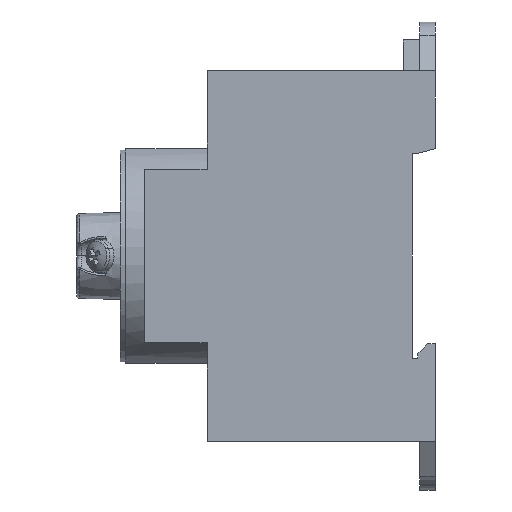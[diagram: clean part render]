
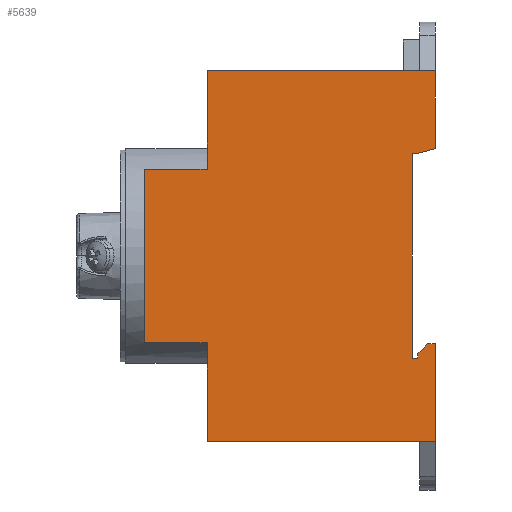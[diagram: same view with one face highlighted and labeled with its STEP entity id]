
A CAD part, left-side view. The second image highlights one B-rep face of the part: STEP entity #5639.
In plain terms, the highlighted planar face has unit normal (-1, 0, 0).
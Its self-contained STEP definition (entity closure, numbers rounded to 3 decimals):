
#64 = CARTESIAN_POINT ( 'NONE',  ( -24., 3., -17.65 ) ) ;
#140 = EDGE_CURVE ( 'NONE', #5126, #5899, #4049, .T. ) ;
#168 = ORIENTED_EDGE ( 'NONE', *, *, #3841, .F. ) ;
#253 = CARTESIAN_POINT ( 'NONE',  ( -24., 0., 32. ) ) ;
#258 = CARTESIAN_POINT ( 'NONE',  ( -24., 4., -17.65 ) ) ;
#374 = EDGE_CURVE ( 'NONE', #2223, #6855, #3961, .T. ) ;
#505 = CARTESIAN_POINT ( 'NONE',  ( -24., 39.4, -15.15 ) ) ;
#566 = CARTESIAN_POINT ( 'NONE',  ( -24., 39.4, 17.65 ) ) ;
#625 = VECTOR ( 'NONE', #1566, 1000. ) ;
#685 = CARTESIAN_POINT ( 'NONE',  ( -24., 33.394, 9.586 ) ) ;
#718 = PLANE ( 'NONE',  #1920 ) ;
#726 = VERTEX_POINT ( 'NONE', #5466 ) ;
#748 = EDGE_CURVE ( 'NONE', #5899, #7182, #2498, .T. ) ;
#827 = CARTESIAN_POINT ( 'NONE',  ( -24., 39.4, -32. ) ) ;
#854 = ORIENTED_EDGE ( 'NONE', *, *, #748, .F. ) ;
#958 = LINE ( 'NONE', #1234, #7275 ) ;
#995 = EDGE_CURVE ( 'NONE', #1574, #2355, #5217, .T. ) ;
#1037 = VECTOR ( 'NONE', #4441, 1000. ) ;
#1083 = VERTEX_POINT ( 'NONE', #4453 ) ;
#1193 = ORIENTED_EDGE ( 'NONE', *, *, #1551, .F. ) ;
#1234 = CARTESIAN_POINT ( 'NONE',  ( -24., 3., 32. ) ) ;
#1272 = CARTESIAN_POINT ( 'NONE',  ( -24., 50.2, 15. ) ) ;
#1517 = ORIENTED_EDGE ( 'NONE', *, *, #1736, .F. ) ;
#1551 = EDGE_CURVE ( 'NONE', #7182, #726, #6937, .T. ) ;
#1566 = DIRECTION ( 'NONE',  ( 0., 0., -1. ) ) ;
#1574 = VERTEX_POINT ( 'NONE', #4556 ) ;
#1605 = CARTESIAN_POINT ( 'NONE',  ( -24., 0., -32. ) ) ;
#1616 = CARTESIAN_POINT ( 'NONE',  ( -24., 39.4, 32. ) ) ;
#1657 = EDGE_CURVE ( 'NONE', #6606, #5126, #4095, .T. ) ;
#1717 = VERTEX_POINT ( 'NONE', #258 ) ;
#1736 = EDGE_CURVE ( 'NONE', #2761, #3151, #2447, .T. ) ;
#1840 = VECTOR ( 'NONE', #5857, 1000. ) ;
#1858 = ORIENTED_EDGE ( 'NONE', *, *, #140, .F. ) ;
#1885 = ORIENTED_EDGE ( 'NONE', *, *, #5420, .F. ) ;
#1920 = AXIS2_PLACEMENT_3D ( 'NONE', #3473, #5200, #5770 ) ;
#1956 = VECTOR ( 'NONE', #3483, 1000. ) ;
#2223 = VERTEX_POINT ( 'NONE', #1616 ) ;
#2355 = VERTEX_POINT ( 'NONE', #4618 ) ;
#2371 = VECTOR ( 'NONE', #6356, 1000. ) ;
#2447 = LINE ( 'NONE', #685, #5608 ) ;
#2462 = VERTEX_POINT ( 'NONE', #64 ) ;
#2475 = ORIENTED_EDGE ( 'NONE', *, *, #4359, .F. ) ;
#2489 = VECTOR ( 'NONE', #3613, 1000. ) ;
#2498 = LINE ( 'NONE', #2916, #2489 ) ;
#2499 = ORIENTED_EDGE ( 'NONE', *, *, #2617, .F. ) ;
#2584 = VECTOR ( 'NONE', #5146, 1000. ) ;
#2586 = VECTOR ( 'NONE', #3836, 1000. ) ;
#2617 = EDGE_CURVE ( 'NONE', #1083, #1717, #6159, .T. ) ;
#2622 = DIRECTION ( 'NONE',  ( 0., -1., 0. ) ) ;
#2672 = LINE ( 'NONE', #253, #1840 ) ;
#2712 = VECTOR ( 'NONE', #2933, 1000. ) ;
#2760 = FACE_OUTER_BOUND ( 'NONE', #3240, .T. ) ;
#2761 = VERTEX_POINT ( 'NONE', #2884 ) ;
#2765 = CARTESIAN_POINT ( 'NONE',  ( -24., 39.4, -15. ) ) ;
#2884 = CARTESIAN_POINT ( 'NONE',  ( -24., 0., 18.534 ) ) ;
#2916 = CARTESIAN_POINT ( 'NONE',  ( -24., 39.4, -15. ) ) ;
#2933 = DIRECTION ( 'NONE',  ( 0., 1., 0. ) ) ;
#3151 = VERTEX_POINT ( 'NONE', #3243 ) ;
#3240 = EDGE_LOOP ( 'NONE', ( #1517, #4260, #4573, #1885, #6626, #168, #1193, #854, #1858, #7231, #2475, #5196, #4118, #5455, #2499, #3573 ) ) ;
#3243 = CARTESIAN_POINT ( 'NONE',  ( -24., 3.3, 17.65 ) ) ;
#3299 = CARTESIAN_POINT ( 'NONE',  ( -24., 39.4, 15. ) ) ;
#3473 = CARTESIAN_POINT ( 'NONE',  ( -24., 39.4, 32. ) ) ;
#3483 = DIRECTION ( 'NONE',  ( 0., -1., 0. ) ) ;
#3515 = EDGE_CURVE ( 'NONE', #6855, #2761, #2672, .T. ) ;
#3566 = CARTESIAN_POINT ( 'NONE',  ( -24., 0., -32. ) ) ;
#3573 = ORIENTED_EDGE ( 'NONE', *, *, #4422, .F. ) ;
#3613 = DIRECTION ( 'NONE',  ( 0., 0., 1. ) ) ;
#3626 = LINE ( 'NONE', #4971, #7180 ) ;
#3836 = DIRECTION ( 'NONE',  ( 0., -1., 0. ) ) ;
#3841 = EDGE_CURVE ( 'NONE', #726, #5909, #4624, .T. ) ;
#3851 = CARTESIAN_POINT ( 'NONE',  ( -24., 39.4, 15. ) ) ;
#3902 = DIRECTION ( 'NONE',  ( 0., -0.707, 0.707 ) ) ;
#3961 = LINE ( 'NONE', #5571, #7247 ) ;
#4049 = LINE ( 'NONE', #1605, #2584 ) ;
#4095 = LINE ( 'NONE', #5432, #2371 ) ;
#4118 = ORIENTED_EDGE ( 'NONE', *, *, #4546, .F. ) ;
#4260 = ORIENTED_EDGE ( 'NONE', *, *, #3515, .F. ) ;
#4359 = EDGE_CURVE ( 'NONE', #2355, #6606, #7255, .T. ) ;
#4422 = EDGE_CURVE ( 'NONE', #3151, #1083, #5221, .T. ) ;
#4441 = DIRECTION ( 'NONE',  ( 0., 1., 0. ) ) ;
#4453 = CARTESIAN_POINT ( 'NONE',  ( -24., 4., 17.65 ) ) ;
#4486 = CARTESIAN_POINT ( 'NONE',  ( -24., 0., 32. ) ) ;
#4546 = EDGE_CURVE ( 'NONE', #2462, #1574, #958, .T. ) ;
#4556 = CARTESIAN_POINT ( 'NONE',  ( -24., 3., -16.85 ) ) ;
#4573 = ORIENTED_EDGE ( 'NONE', *, *, #374, .F. ) ;
#4618 = CARTESIAN_POINT ( 'NONE',  ( -24., 1.3, -15.15 ) ) ;
#4624 = LINE ( 'NONE', #5593, #5795 ) ;
#4718 = CARTESIAN_POINT ( 'NONE',  ( -24., 50.2, -15. ) ) ;
#4861 = VERTEX_POINT ( 'NONE', #3299 ) ;
#4907 = LINE ( 'NONE', #6274, #1956 ) ;
#4971 = CARTESIAN_POINT ( 'NONE',  ( -24., 39.4, 32. ) ) ;
#5081 = LINE ( 'NONE', #3851, #6394 ) ;
#5116 = CARTESIAN_POINT ( 'NONE',  ( -24., 0., -15.15 ) ) ;
#5126 = VERTEX_POINT ( 'NONE', #3566 ) ;
#5146 = DIRECTION ( 'NONE',  ( 0., 1., 0. ) ) ;
#5196 = ORIENTED_EDGE ( 'NONE', *, *, #995, .F. ) ;
#5200 = DIRECTION ( 'NONE',  ( -1., 0., 0. ) ) ;
#5217 = LINE ( 'NONE', #5252, #6990 ) ;
#5221 = LINE ( 'NONE', #566, #1037 ) ;
#5252 = CARTESIAN_POINT ( 'NONE',  ( -24., -3.225, -10.625 ) ) ;
#5420 = EDGE_CURVE ( 'NONE', #4861, #2223, #3626, .T. ) ;
#5432 = CARTESIAN_POINT ( 'NONE',  ( -24., 0., 32. ) ) ;
#5455 = ORIENTED_EDGE ( 'NONE', *, *, #7285, .F. ) ;
#5466 = CARTESIAN_POINT ( 'NONE',  ( -24., 50.2, -15. ) ) ;
#5571 = CARTESIAN_POINT ( 'NONE',  ( -24., 0., 32. ) ) ;
#5593 = CARTESIAN_POINT ( 'NONE',  ( -24., 50.2, 15. ) ) ;
#5608 = VECTOR ( 'NONE', #5960, 1000. ) ;
#5639 = ADVANCED_FACE ( 'NONE', ( #2760 ), #718, .T. ) ;
#5736 = DIRECTION ( 'NONE',  ( 0., 0., 1. ) ) ;
#5770 = DIRECTION ( 'NONE',  ( 0., 0., 1. ) ) ;
#5795 = VECTOR ( 'NONE', #6132, 1000. ) ;
#5857 = DIRECTION ( 'NONE',  ( 0., 0., -1. ) ) ;
#5899 = VERTEX_POINT ( 'NONE', #827 ) ;
#5909 = VERTEX_POINT ( 'NONE', #1272 ) ;
#5960 = DIRECTION ( 'NONE',  ( 0., 0.966, -0.259 ) ) ;
#6062 = CARTESIAN_POINT ( 'NONE',  ( -24., 4., 32. ) ) ;
#6132 = DIRECTION ( 'NONE',  ( 0., 0., 1. ) ) ;
#6159 = LINE ( 'NONE', #6062, #625 ) ;
#6274 = CARTESIAN_POINT ( 'NONE',  ( -24., 39.4, -17.65 ) ) ;
#6356 = DIRECTION ( 'NONE',  ( 0., 0., -1. ) ) ;
#6394 = VECTOR ( 'NONE', #2622, 1000. ) ;
#6543 = EDGE_CURVE ( 'NONE', #5909, #4861, #5081, .T. ) ;
#6606 = VERTEX_POINT ( 'NONE', #5116 ) ;
#6626 = ORIENTED_EDGE ( 'NONE', *, *, #6543, .F. ) ;
#6631 = DIRECTION ( 'NONE',  ( 0., 0., 1. ) ) ;
#6855 = VERTEX_POINT ( 'NONE', #4486 ) ;
#6937 = LINE ( 'NONE', #4718, #2712 ) ;
#6990 = VECTOR ( 'NONE', #3902, 1000. ) ;
#7180 = VECTOR ( 'NONE', #6631, 1000. ) ;
#7182 = VERTEX_POINT ( 'NONE', #2765 ) ;
#7210 = DIRECTION ( 'NONE',  ( 0., -1., 0. ) ) ;
#7231 = ORIENTED_EDGE ( 'NONE', *, *, #1657, .F. ) ;
#7247 = VECTOR ( 'NONE', #7210, 1000. ) ;
#7255 = LINE ( 'NONE', #505, #2586 ) ;
#7275 = VECTOR ( 'NONE', #5736, 1000. ) ;
#7285 = EDGE_CURVE ( 'NONE', #1717, #2462, #4907, .T. ) ;
